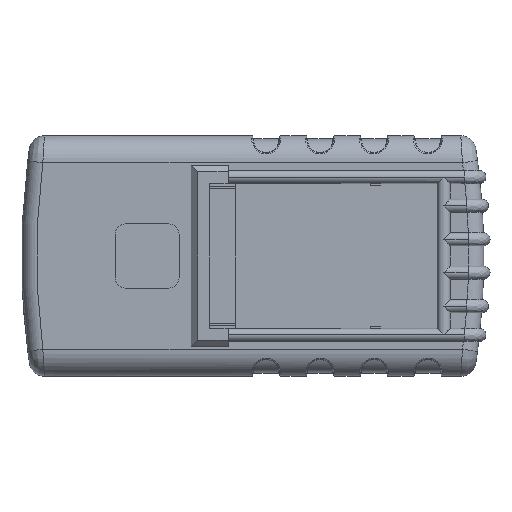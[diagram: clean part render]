
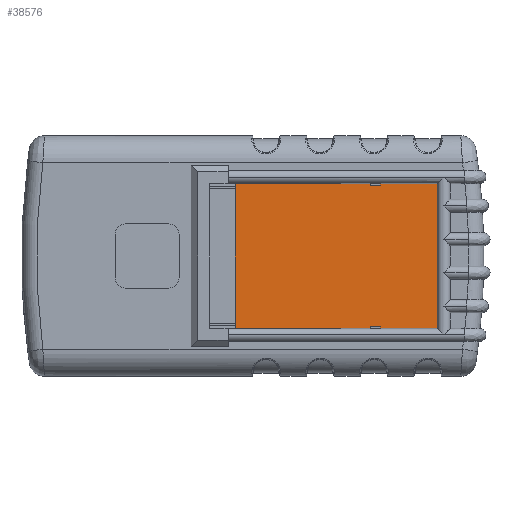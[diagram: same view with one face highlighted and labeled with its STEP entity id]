
A CAD part, front view. The second image highlights one B-rep face of the part: STEP entity #38576.
In plain terms, the highlighted planar face has unit normal (0, -1, 0).
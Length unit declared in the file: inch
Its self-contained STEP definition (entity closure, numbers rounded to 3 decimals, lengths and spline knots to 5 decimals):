
#159 = DIRECTION ( 'NONE',  ( 0., 0., 1. ) ) ;
#650 = ORIENTED_EDGE ( 'NONE', *, *, #46680, .F. ) ;
#797 = ORIENTED_EDGE ( 'NONE', *, *, #47716, .T. ) ;
#941 = DIRECTION ( 'NONE',  ( -1., 0., 0. ) ) ;
#2257 = CARTESIAN_POINT ( 'NONE',  ( 2.17882, 0.035, 1.3435 ) ) ;
#2925 = DIRECTION ( 'NONE',  ( 0., 0., -1. ) ) ;
#3129 = CARTESIAN_POINT ( 'NONE',  ( -0.32118, 0.035, 1.3435 ) ) ;
#3337 = ORIENTED_EDGE ( 'NONE', *, *, #21906, .T. ) ;
#3339 = ORIENTED_EDGE ( 'NONE', *, *, #32535, .T. ) ;
#3464 = EDGE_CURVE ( 'NONE', #8994, #13882, #21587, .T. ) ;
#3819 = VERTEX_POINT ( 'NONE', #13758 ) ;
#4257 = CARTESIAN_POINT ( 'NONE',  ( 2.17882, 0.035, -1.3435 ) ) ;
#5572 = DIRECTION ( 'NONE',  ( 0., 0., -1. ) ) ;
#5748 = DIRECTION ( 'NONE',  ( 0., -1., 0. ) ) ;
#6097 = ORIENTED_EDGE ( 'NONE', *, *, #47999, .T. ) ;
#7285 = ORIENTED_EDGE ( 'NONE', *, *, #23938, .F. ) ;
#8994 = VERTEX_POINT ( 'NONE', #37078 ) ;
#9077 = DIRECTION ( 'NONE',  ( 0., 0., 1. ) ) ;
#9096 = VECTOR ( 'NONE', #38826, 39.37008 ) ;
#9563 = EDGE_LOOP ( 'NONE', ( #3339, #797, #28142, #43832, #48363, #7285, #650, #43545, #6097, #3337, #26478, #24028 ) ) ;
#10421 = VECTOR ( 'NONE', #5572, 39.37008 ) ;
#10525 = VERTEX_POINT ( 'NONE', #30961 ) ;
#12945 = CARTESIAN_POINT ( 'NONE',  ( 3.42182, 0.035, 1.3435 ) ) ;
#13758 = CARTESIAN_POINT ( 'NONE',  ( 3.42182, 0.035, -1.3435 ) ) ;
#13882 = VERTEX_POINT ( 'NONE', #26708 ) ;
#14564 = CARTESIAN_POINT ( 'NONE',  ( 3.42182, 0.035, 1.3435 ) ) ;
#14920 = CARTESIAN_POINT ( 'NONE',  ( -0.32118, 0.035, -1.3435 ) ) ;
#16413 = VECTOR ( 'NONE', #2925, 39.37008 ) ;
#16943 = VECTOR ( 'NONE', #41212, 39.37008 ) ;
#17076 = CARTESIAN_POINT ( 'NONE',  ( 0., 0.035, 1.31086 ) ) ;
#17276 = EDGE_CURVE ( 'NONE', #36596, #37186, #46428, .T. ) ;
#17935 = LINE ( 'NONE', #28828, #26771 ) ;
#18138 = EDGE_CURVE ( 'NONE', #37186, #47755, #35791, .T. ) ;
#19524 = LINE ( 'NONE', #17076, #21895 ) ;
#20064 = CARTESIAN_POINT ( 'NONE',  ( 3.42182, 0.035, 1.3435 ) ) ;
#20439 = CARTESIAN_POINT ( 'NONE',  ( -0.32118, 0.035, -1.3435 ) ) ;
#20487 = VECTOR ( 'NONE', #45859, 39.37008 ) ;
#20671 = LINE ( 'NONE', #44578, #40716 ) ;
#21587 = LINE ( 'NONE', #24309, #10421 ) ;
#21843 = EDGE_CURVE ( 'NONE', #29321, #8994, #31456, .T. ) ;
#21895 = VECTOR ( 'NONE', #47176, 39.37008 ) ;
#21906 = EDGE_CURVE ( 'NONE', #3819, #29321, #17935, .T. ) ;
#23205 = FACE_OUTER_BOUND ( 'NONE', #9563, .T. ) ;
#23817 = VERTEX_POINT ( 'NONE', #36392 ) ;
#23938 = EDGE_CURVE ( 'NONE', #23817, #47755, #20671, .T. ) ;
#24028 = ORIENTED_EDGE ( 'NONE', *, *, #3464, .T. ) ;
#24309 = CARTESIAN_POINT ( 'NONE',  ( 2.36682, 0.035, 0. ) ) ;
#24344 = VERTEX_POINT ( 'NONE', #47173 ) ;
#25847 = DIRECTION ( 'NONE',  ( 0., 0., -1. ) ) ;
#26340 = EDGE_CURVE ( 'NONE', #35006, #24344, #41703, .T. ) ;
#26478 = ORIENTED_EDGE ( 'NONE', *, *, #21843, .T. ) ;
#26708 = CARTESIAN_POINT ( 'NONE',  ( 2.36682, 0.035, 1.31086 ) ) ;
#26771 = VECTOR ( 'NONE', #9077, 39.37008 ) ;
#27046 = EDGE_CURVE ( 'NONE', #34431, #36596, #46947, .T. ) ;
#28023 = LINE ( 'NONE', #32305, #29206 ) ;
#28142 = ORIENTED_EDGE ( 'NONE', *, *, #27046, .T. ) ;
#28259 = PLANE ( 'NONE',  #34872 ) ;
#28828 = CARTESIAN_POINT ( 'NONE',  ( 3.42182, 0.035, -1.3435 ) ) ;
#29206 = VECTOR ( 'NONE', #43617, 39.37008 ) ;
#29321 = VERTEX_POINT ( 'NONE', #12945 ) ;
#30203 = CARTESIAN_POINT ( 'NONE',  ( 2.17882, 0.035, 0. ) ) ;
#30961 = CARTESIAN_POINT ( 'NONE',  ( 2.17882, 0.035, 1.31086 ) ) ;
#31456 = LINE ( 'NONE', #20064, #9096 ) ;
#31510 = VECTOR ( 'NONE', #31796, 39.37008 ) ;
#31796 = DIRECTION ( 'NONE',  ( 1., 0., 0. ) ) ;
#32037 = DIRECTION ( 'NONE',  ( 0., 0., -1. ) ) ;
#32305 = CARTESIAN_POINT ( 'NONE',  ( 0., 0.035, -1.31086 ) ) ;
#32535 = EDGE_CURVE ( 'NONE', #13882, #10525, #19524, .T. ) ;
#32660 = LINE ( 'NONE', #30203, #41463 ) ;
#34431 = VERTEX_POINT ( 'NONE', #2257 ) ;
#34872 = AXIS2_PLACEMENT_3D ( 'NONE', #43198, #5748, #32037 ) ;
#35006 = VERTEX_POINT ( 'NONE', #37779 ) ;
#35791 = LINE ( 'NONE', #14920, #16943 ) ;
#36392 = CARTESIAN_POINT ( 'NONE',  ( 2.17882, 0.035, -1.31086 ) ) ;
#36596 = VERTEX_POINT ( 'NONE', #3129 ) ;
#36949 = VECTOR ( 'NONE', #941, 39.37008 ) ;
#37078 = CARTESIAN_POINT ( 'NONE',  ( 2.36682, 0.035, 1.3435 ) ) ;
#37186 = VERTEX_POINT ( 'NONE', #42137 ) ;
#37779 = CARTESIAN_POINT ( 'NONE',  ( 2.36682, 0.035, -1.3435 ) ) ;
#38576 = ADVANCED_FACE ( 'NONE', ( #23205 ), #28259, .T. ) ;
#38826 = DIRECTION ( 'NONE',  ( -1., 0., 0. ) ) ;
#40716 = VECTOR ( 'NONE', #25847, 39.37008 ) ;
#41212 = DIRECTION ( 'NONE',  ( 1., 0., 0. ) ) ;
#41463 = VECTOR ( 'NONE', #159, 39.37008 ) ;
#41512 = LINE ( 'NONE', #20439, #31510 ) ;
#41703 = LINE ( 'NONE', #42071, #20487 ) ;
#42071 = CARTESIAN_POINT ( 'NONE',  ( 2.36682, 0.035, 0. ) ) ;
#42137 = CARTESIAN_POINT ( 'NONE',  ( -0.32118, 0.035, -1.3435 ) ) ;
#43198 = CARTESIAN_POINT ( 'NONE',  ( 0., 0.035, 0. ) ) ;
#43545 = ORIENTED_EDGE ( 'NONE', *, *, #26340, .F. ) ;
#43617 = DIRECTION ( 'NONE',  ( -1., 0., 0. ) ) ;
#43832 = ORIENTED_EDGE ( 'NONE', *, *, #17276, .T. ) ;
#44578 = CARTESIAN_POINT ( 'NONE',  ( 2.17882, 0.035, 0. ) ) ;
#45859 = DIRECTION ( 'NONE',  ( 0., 0., 1. ) ) ;
#46428 = LINE ( 'NONE', #47923, #16413 ) ;
#46680 = EDGE_CURVE ( 'NONE', #24344, #23817, #28023, .T. ) ;
#46947 = LINE ( 'NONE', #14564, #36949 ) ;
#47173 = CARTESIAN_POINT ( 'NONE',  ( 2.36682, 0.035, -1.31086 ) ) ;
#47176 = DIRECTION ( 'NONE',  ( -1., 0., 0. ) ) ;
#47716 = EDGE_CURVE ( 'NONE', #10525, #34431, #32660, .T. ) ;
#47755 = VERTEX_POINT ( 'NONE', #4257 ) ;
#47923 = CARTESIAN_POINT ( 'NONE',  ( -0.32118, 0.035, 1.3435 ) ) ;
#47999 = EDGE_CURVE ( 'NONE', #35006, #3819, #41512, .T. ) ;
#48363 = ORIENTED_EDGE ( 'NONE', *, *, #18138, .T. ) ;
